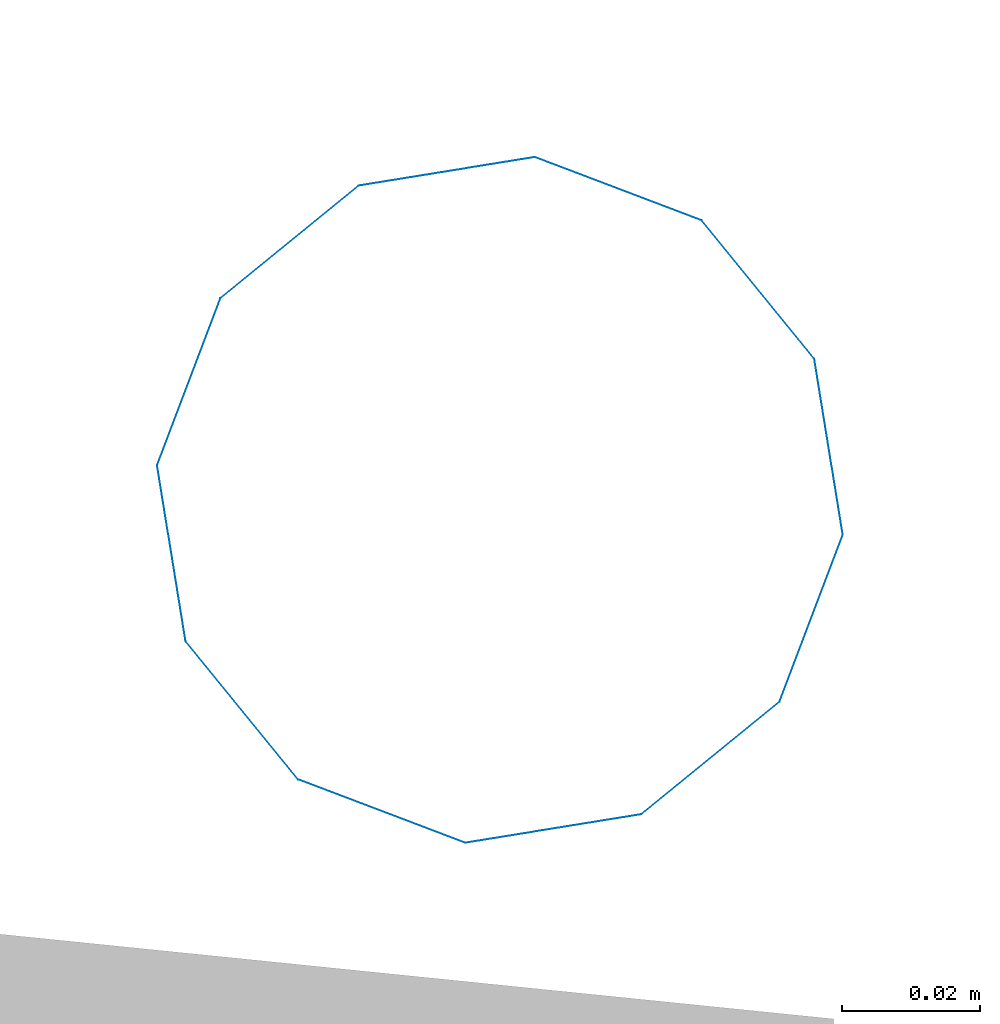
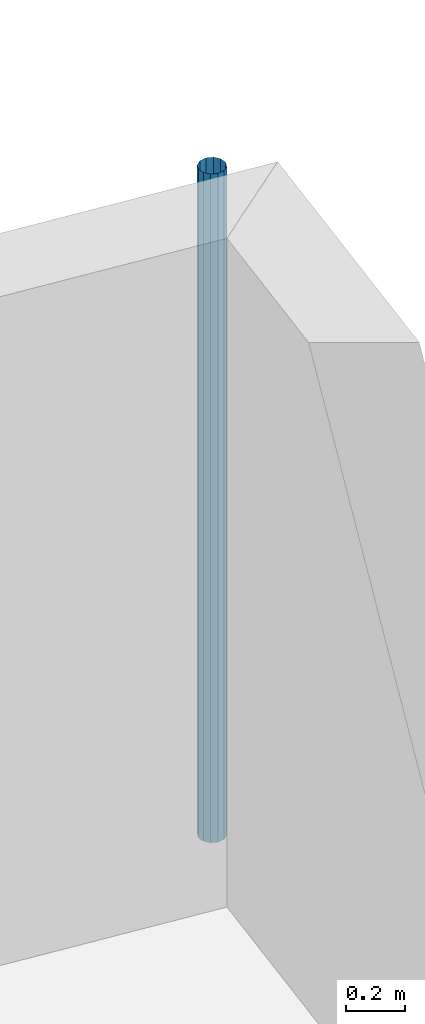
# One storey, part 99 of 171: 1 discrete accessory.
"""IFC2X3 building model written with IfcOpenShell, lengths in millimetres."""

import ifcopenshell
import ifcopenshell.guid

model = None  # the IFC model being written
_history = None  # IfcOwnerHistory: only IFC2X3 demands one
_inside = {}  # id of a spatial element -> (the spatial element, [elements in it])
_under = {}  # id of a project, library or spatial element -> (it, [spatial elements below it])
_declared = {}  # id of a project -> (the project, [libraries it declares])
_typed = {}  # id of a type object -> (the type object, [elements of that type])
_made_of = {}  # id of a material, layer set ... -> (it, [elements and type objects made of it])


def new_model(schema):
    """Start an empty IFC model of exactly this schema.

    Asked for "IFC4X3", IfcOpenShell would pick the latest addendum, in which some entities
    have other attributes; the version numbers below select the first issue.
    IFC2X3 requires an IfcOwnerHistory on every rooted entity: one is made here for all.
    """
    global model, _history
    if schema == "IFC4X3":
        model = ifcopenshell.file(schema_version=(4, 3, 0, 0))
    else:
        model = ifcopenshell.file(schema=schema)
    _inside.clear()
    _under.clear()
    _declared.clear()
    _typed.clear()
    _made_of.clear()
    _history = None
    if model.schema == "IFC2X3":
        org = make("IfcOrganization", Name="unknown")
        user = make(
            "IfcPersonAndOrganization",
            ThePerson=make("IfcPerson", FamilyName="unknown"),
            TheOrganization=org,
        )
        app = make(
            "IfcApplication",
            ApplicationDeveloper=org,
            Version="unknown",
            ApplicationFullName="unknown",
            ApplicationIdentifier="unknown",
        )
        _history = make(
            "IfcOwnerHistory",
            OwningUser=user,
            OwningApplication=app,
            ChangeAction="ADDED",
            CreationDate=0,
        )
    return model


def make(cls, **values):
    """One entity of the class cls with the attributes given. An attribute that is None is left unset."""
    return model.create_entity(
        cls, **{name: value for name, value in values.items() if value is not None}
    )


def entity(cls, *values):
    """Any entity or typed value of the class cls, its attributes in the order of the schema. None: left unset."""
    e = model.create_entity(cls)
    for i, value in enumerate(values):
        if value is not None:
            e[i] = value
    return e


def rooted(cls, **values):
    """An entity with a GlobalId (a new one), such as an element, a storey or a relation."""
    return make(cls, GlobalId=ifcopenshell.guid.new(), OwnerHistory=_history, **values)


def si_unit(unit_type, name, prefix=None):
    """IfcSIUnit, for example si_unit("LENGTHUNIT", "METRE", prefix="MILLI")."""
    return make("IfcSIUnit", UnitType=unit_type, Prefix=prefix, Name=name)


def converted_unit(unit_type, name, factor, base, dimensions=None, offset=None):
    """IfcConversionBasedUnit, such as the inch: factor (a typed value) times the base unit."""
    return make(
        "IfcConversionBasedUnit"
        if offset is None
        else "IfcConversionBasedUnitWithOffset",
        ConversionOffset=offset,
        Dimensions=None
        if dimensions is None
        else entity("IfcDimensionalExponents", *dimensions),
        UnitType=unit_type,
        Name=name,
        ConversionFactor=make(
            "IfcMeasureWithUnit", ValueComponent=factor, UnitComponent=base
        ),
    )


def derived_unit(unit_type, elements):
    """IfcDerivedUnit: a product of units, each with its exponent."""
    return make(
        "IfcDerivedUnit",
        Elements=[
            make("IfcDerivedUnitElement", Unit=unit, Exponent=power)
            for unit, power in elements
        ],
        UnitType=unit_type,
    )


def money_unit(currency):
    """IfcMonetaryUnit."""
    return make("IfcMonetaryUnit", Currency=currency)


def assignment(units):
    """IfcUnitAssignment: the units of a project."""
    return None if units is None else make("IfcUnitAssignment", Units=units)


def point(xyz):
    """IfcCartesianPoint."""
    return None if xyz is None else make("IfcCartesianPoint", Coordinates=xyz)


def direction(xyz):
    """IfcDirection."""
    return None if xyz is None else make("IfcDirection", DirectionRatios=xyz)


def frame(location, z_axis=None, x_axis=None):
    """IfcAxis2Placement3D, a coordinate frame: its origin and axes. An axis left out is left unset."""
    return make(
        "IfcAxis2Placement3D",
        Location=point(location),
        Axis=direction(z_axis),
        RefDirection=direction(x_axis),
    )


def origin_with_axes():
    """The frame at (0, 0, 0) with the z axis (0, 0, 1) and the x axis (1, 0, 0) written out."""
    return frame((0.0, 0.0, 0.0), z_axis=(0.0, 0.0, 1.0), x_axis=(1.0, 0.0, 0.0))


def place(relative_to, where):
    """IfcLocalPlacement: puts the frame where relative to a parent placement (None: the world)."""
    return make(
        "IfcLocalPlacement", PlacementRelTo=relative_to, RelativePlacement=where
    )


def context(
    kind, dimensions, precision=None, world=None, true_north=None, identifier=None
):
    """IfcGeometricRepresentationContext, for example the 3D "Model" context."""
    return make(
        "IfcGeometricRepresentationContext",
        ContextIdentifier=identifier,
        ContextType=kind,
        CoordinateSpaceDimension=dimensions,
        Precision=precision,
        WorldCoordinateSystem=world,
        TrueNorth=true_north,
    )


def subcontext(parent, identifier, kind, view, scale=None):
    """IfcGeometricRepresentationSubContext, for example "Body" below "Model"."""
    return make(
        "IfcGeometricRepresentationSubContext",
        ContextIdentifier=identifier,
        ContextType=kind,
        ParentContext=parent,
        TargetScale=scale,
        TargetView=view,
    )


def project(units=None, contexts=None):
    """IfcProject with its units and contexts."""
    return rooted(
        "IfcProject",
        Name="project",
        RepresentationContexts=contexts,
        UnitsInContext=assignment(units),
    )


def spatial(cls, under=None, at=None, **own):
    """A site, building, storey or space (cls), placed at a placement, below another one or the project."""
    s = rooted(cls, ObjectPlacement=at, **own)
    if under is not None:
        _under.setdefault(under.id(), (under, []))[1].append(s)
    return s


def faces_of(points, faces, orient=None, outer=None):
    """IfcFace entities. A face is a list of loops; a loop is a list of indices into points, from 0.

    orient and outer hold one flag for each loop. By default every Orientation is true, the
    first loop of a face is its IfcFaceOuterBound and the others are IfcFaceBound.
    """
    made = []
    for i, loops in enumerate(faces):
        bounds = []
        for j, loop in enumerate(loops):
            is_outer = j == 0 if outer is None else outer[i][j]
            bounds.append(
                make(
                    "IfcFaceOuterBound" if is_outer else "IfcFaceBound",
                    Bound=make("IfcPolyLoop", Polygon=[points[k] for k in loop]),
                    Orientation=True if orient is None else orient[i][j],
                )
            )
        made.append(make("IfcFace", Bounds=bounds))
    return made


def open_shell(faces, orient=None, outer=None):
    """The faces of one IfcOpenShell. surface_model builds it on its shared points."""
    return ("IfcOpenShell", faces, orient, outer)


def surface_model(cls, points, shells):
    """IfcFaceBasedSurfaceModel or IfcShellBasedSurfaceModel (cls): surfaces that need not close."""
    shared = [point(p) for p in points]
    made = [make(c, CfsFaces=faces_of(shared, fs, o, b)) for c, fs, o, b in shells]
    if cls == "IfcFaceBasedSurfaceModel":
        return make(cls, FbsmFaces=made)
    return make(cls, SbsmBoundary=made)


def shape(context_of_items, identifier, shape_type, items):
    """IfcShapeRepresentation: the items that make up one representation, for example the "Body"."""
    return make(
        "IfcShapeRepresentation",
        ContextOfItems=context_of_items,
        RepresentationIdentifier=identifier,
        RepresentationType=shape_type,
        Items=items,
    )


def source(mapping_origin, context_of_items, identifier, shape_type, items):
    """IfcRepresentationMap: a shape defined once, which mapped items show again and again."""
    return make(
        "IfcRepresentationMap",
        MappingOrigin=mapping_origin,
        MappedRepresentation=shape(context_of_items, identifier, shape_type, items),
    )


def transform(
    local_origin,
    x_axis=None,
    y_axis=None,
    z_axis=None,
    scale=None,
    scale2=None,
    scale3=None,
    uniform=True,
):
    """IfcCartesianTransformationOperator3D, or its non-uniform kind. x_axis, y_axis, z_axis: its Axis1, 2, 3."""
    if uniform:
        return make(
            "IfcCartesianTransformationOperator3D",
            Axis1=direction(x_axis),
            Axis2=direction(y_axis),
            LocalOrigin=point(local_origin),
            Scale=scale,
            Axis3=direction(z_axis),
        )
    return make(
        "IfcCartesianTransformationOperator3DnonUniform",
        Axis1=direction(x_axis),
        Axis2=direction(y_axis),
        LocalOrigin=point(local_origin),
        Scale=scale,
        Axis3=direction(z_axis),
        Scale2=scale2,
        Scale3=scale3,
    )


def mapped(mapping_source, mapping_target):
    """IfcMappedItem: shows the shape of a source again, moved by a transform."""
    return make(
        "IfcMappedItem", MappingSource=mapping_source, MappingTarget=mapping_target
    )


def made_of(thing, what):
    """Note that an element or type object is made of a material, layer set ...; save() writes the relation."""
    if what is not None:
        _made_of.setdefault(what.id(), (what, []))[1].append(thing)
    return thing


def type_object(cls, material=None, **own):
    """A type object (cls), such as IfcWallType, which elements share."""
    return made_of(rooted(cls, **own), material)


def element(
    cls,
    number,
    at=None,
    inside=None,
    cuts=None,
    type_object=None,
    material=None,
    context=None,
    identifier="Body",
    shape_type=None,
    held_by="IfcProductDefinitionShape",
    body=None,
    shapes=None,
    **own,
):
    """One element of the class cls, such as IfcWall. Its Tag is "e" and its number.

    at: its placement. inside: the storey or other place that contains it. cuts: it is an
    opening in that element (IfcRelVoidsElement). A single representation is given by context,
    identifier, shape_type and body (its items); several are given by shapes. held_by: the class
    of the entity that holds the representations. save() writes the other relations.
    """
    e = rooted(cls, Tag="e%d" % number, ObjectPlacement=at, **own)
    if body is not None:
        shapes = [shape(context, identifier, shape_type, body)]
    if shapes is not None:
        e.Representation = make(held_by, Representations=shapes)
    if inside is not None:
        _inside.setdefault(inside.id(), (inside, []))[1].append(e)
    if cuts is not None:
        rooted(
            "IfcRelVoidsElement", RelatingBuildingElement=cuts, RelatedOpeningElement=e
        )
    if type_object is not None:
        _typed.setdefault(type_object.id(), (type_object, []))[1].append(e)
    return made_of(e, material)


def aggregate(whole, parts):
    """IfcRelAggregates: a whole, such as a stair, and the parts it consists of."""
    return rooted("IfcRelAggregates", RelatingObject=whole, RelatedObjects=parts)


def save(model, path):
    """Write the relations noted so far, then the file.

    IfcRelAggregates (storeys below a building ...), IfcRelContainedInSpatialStructure (elements
    in a storey), IfcRelDefinesByType, IfcRelAssociatesMaterial and IfcRelDeclares: one each for
    every whole, place, type object, material and project.
    """
    for whole, parts in _under.values():
        aggregate(whole, parts)
    for where, things in _inside.values():
        rooted(
            "IfcRelContainedInSpatialStructure",
            RelatedElements=things,
            RelatingStructure=where,
        )
    for kind, things in _typed.values():
        rooted("IfcRelDefinesByType", RelatedObjects=things, RelatingType=kind)
    for what, things in _made_of.values():
        rooted("IfcRelAssociatesMaterial", RelatedObjects=things, RelatingMaterial=what)
    for by, libraries in _declared.values():
        rooted("IfcRelDeclares", RelatingContext=by, RelatedDefinitions=libraries)
    model.write(path)


model = new_model("IFC2X3")

# Units and contexts
model_context = context("Model", 3, precision=0.01, world=origin_with_axes(), true_north=direction((0.0, 1.0)))
body_context = subcontext(model_context, "Body", "Model", "MODEL_VIEW")
ifc_project = project(units=[si_unit("LENGTHUNIT", "METRE", prefix="MILLI"), si_unit("AREAUNIT", "SQUARE_METRE"), si_unit("VOLUMEUNIT", "CUBIC_METRE"), converted_unit("PLANEANGLEUNIT", "DEGREE", entity("IfcPlaneAngleMeasure", 0.0174532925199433), si_unit("PLANEANGLEUNIT", "RADIAN"), dimensions=[0, 0, 0, 0, 0, 0, 0]), money_unit("USD"), converted_unit("TIMEUNIT", "Year", entity("IfcTimeMeasure", 31557600.0), si_unit("TIMEUNIT", "SECOND"), dimensions=[0, 0, 1, 0, 0, 0, 0]), si_unit("MASSUNIT", "GRAM", prefix="KILO"), si_unit("THERMODYNAMICTEMPERATUREUNIT", "DEGREE_CELSIUS"), si_unit("LUMINOUSINTENSITYUNIT", "LUMEN"), si_unit("ENERGYUNIT", "JOULE", prefix="MEGA"), derived_unit("THERMALCONDUCTANCEUNIT", [(si_unit("POWERUNIT", "WATT"), 1), (si_unit("LENGTHUNIT", "METRE"), -1), (si_unit("THERMODYNAMICTEMPERATUREUNIT", "KELVIN"), -1)]), derived_unit("SPECIFICHEATCAPACITYUNIT", [(si_unit("ENERGYUNIT", "JOULE"), 1), (si_unit("MASSUNIT", "GRAM", prefix="KILO"), -1), (si_unit("THERMODYNAMICTEMPERATUREUNIT", "KELVIN"), -1)]), derived_unit("MASSDENSITYUNIT", [(si_unit("MASSUNIT", "GRAM", prefix="KILO"), 1), (si_unit("VOLUMEUNIT", "CUBIC_METRE"), -1)])], contexts=[model_context])

# Site, building, storey
site_placement = place(None, origin_with_axes())
site = spatial("IfcSite", under=ifc_project, at=site_placement, Name="Site", CompositionType="ELEMENT")
building_placement = place(site_placement, origin_with_axes())
building = spatial("IfcBuilding", under=site, at=building_placement, Name="Bâtiment", CompositionType="ELEMENT")
storey_placement = place(building_placement, frame((0.0, 0.0, 3000.0), z_axis=(0.0, 0.0, 1.0), x_axis=(1.0, 0.0, 0.0)))
storey = spatial("IfcBuildingStorey", under=building, at=storey_placement, Name="rdc", CompositionType="ELEMENT", Elevation=3000.0)

# Discrete accessory
discrete_accessory_type = type_object("IfcDiscreteAccessoryType", Name="Tuyau descente 27")
shared_shape = source(origin_with_axes(), body_context, "Body", "SurfaceModel", [
    surface_model("IfcShellBasedSurfaceModel", [(-50.0, 0.0, 2750.0), (-50.0, 0.0, 0.0), (-43.30127018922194, -25.0, 0.0), (-43.30127018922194, -25.0, 2750.0), (-43.30127018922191, 25.00000000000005, 2750.0), (-43.30127018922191, 25.00000000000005, 0.0), (-25.00000000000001, -43.30127018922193, 0.0), (-25.00000000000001, -43.30127018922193, 2750.0), (-24.99999999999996, 43.30127018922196, 2750.0), (-24.99999999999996, 43.30127018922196, 0.0), (0.0, -50.0, 0.0), (0.0, -50.0, 2750.0), (0.0, 50.0, 2750.0), (0.0, 50.0, 0.0), (24.99999999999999, -43.30127018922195, 0.0), (24.99999999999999, -43.30127018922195, 2750.0), (25.00000000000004, 43.30127018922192, 2750.0), (25.00000000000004, 43.30127018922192, 0.0), (43.30127018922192, -25.00000000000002, 0.0), (43.30127018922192, -25.00000000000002, 2750.0), (43.30127018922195, 24.99999999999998, 2750.0), (43.30127018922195, 24.99999999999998, 0.0), (50.0, 0.0, 0.0), (50.0, 0.0, 2750.0)], [open_shell([[[0, 1, 2, 3]], [[4, 5, 1, 0]], [[3, 2, 6, 7]], [[8, 9, 5, 4]], [[7, 6, 10, 11]], [[12, 13, 9, 8]], [[11, 10, 14, 15]], [[16, 17, 13, 12]], [[15, 14, 18, 19]], [[20, 21, 17, 16]], [[19, 18, 22, 23]], [[23, 22, 21, 20]]])]),
])
discrete_accessory_placement = place(storey_placement, frame((2239980.094787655, -606145.1765339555, 0.0), z_axis=(0.0, 0.0, 1.0), x_axis=(-0.9948759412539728, 0.1011032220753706, 0.0)))
element("IfcDiscreteAccessory", 1, at=discrete_accessory_placement, inside=storey, type_object=discrete_accessory_type, Name="Obj.-318", context=body_context, shape_type="MappedRepresentation", body=[
    mapped(shared_shape, transform((0.0, 0.0, 0.0))),
])

save(model, "model.ifc")
